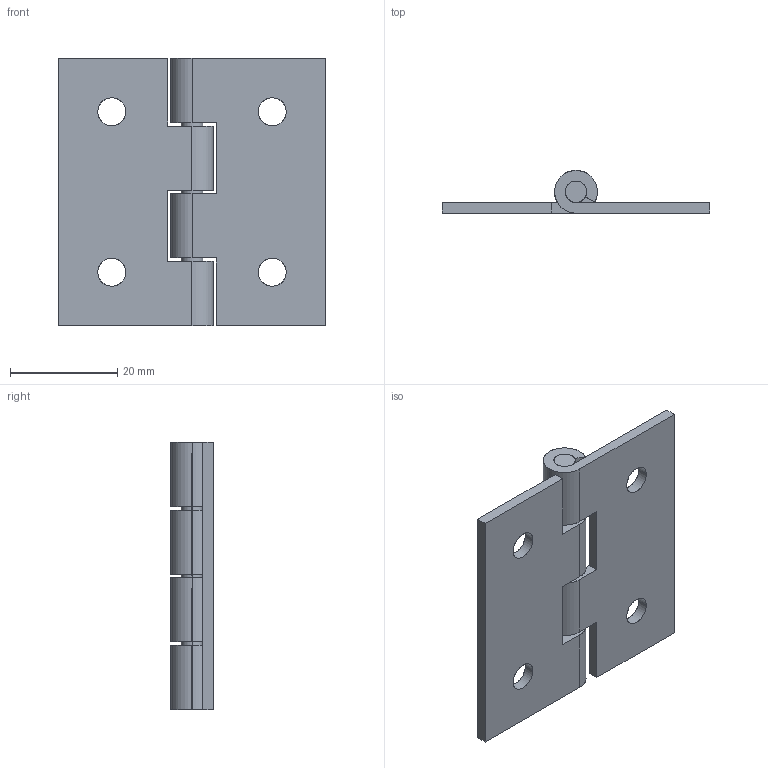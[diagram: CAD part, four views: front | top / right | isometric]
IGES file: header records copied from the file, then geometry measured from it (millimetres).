
Start section: SolidWorks IGES file using analytic representation for surfaces
Global section: file name: Z:\Mes documents\ATAO iges\Gamme CC\CC 422\CC 422.IGS; native system: SolidWorks 2008; preprocessor: SolidWorks 2008; author: cbrechard; date: 110628.162628; units: millimetre
Bounding box: 50 x 8 x 50 mm (x, y, z)
Surface area: 7533.9 mm2 (no closed solid volume)
Topology: 0 solids, 0 shells, 60 faces, 992 edges, 992 vertices
Faces by surface type: revolution 34, bspline 26
